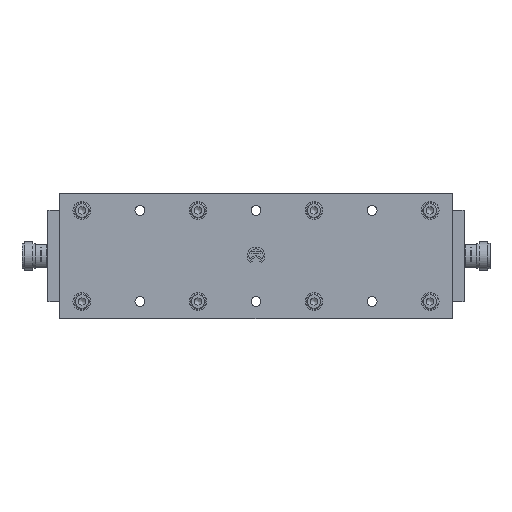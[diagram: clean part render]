
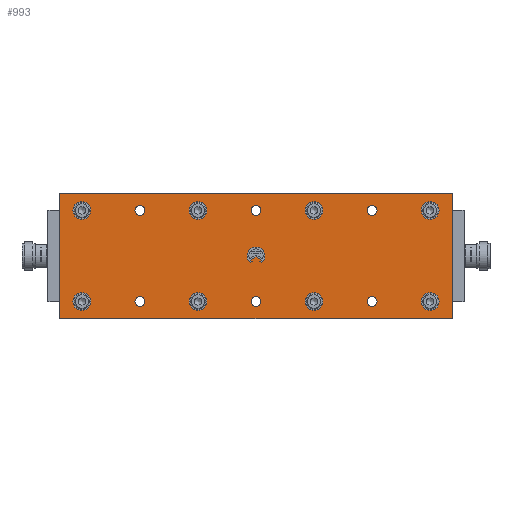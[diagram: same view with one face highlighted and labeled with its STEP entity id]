
A CAD part, top view. The second image highlights one B-rep face of the part: STEP entity #993.
In plain terms, the highlighted planar face has unit normal (0, 0, 1).
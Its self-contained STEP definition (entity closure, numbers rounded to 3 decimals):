
#993=ADVANCED_FACE('',(#2010,#2012,#2014,#2016,#2018,#2020,#2022,#2024,#2026,#2028,
#2030,#2032,#2034,#2036,#2038,#2040),#2042,.T.);
#2010=FACE_BOUND('',#2011,.T.);
#2011=EDGE_LOOP('',(#4111,#4112,#4113,#4114));
#2012=FACE_BOUND('',#2013,.T.);
#2013=EDGE_LOOP('',(#4115,#4116,#4117,#4118,#4119,#4120,#4121));
#2014=FACE_BOUND('',#2015,.T.);
#2015=EDGE_LOOP('',(#4122));
#2016=FACE_BOUND('',#2017,.T.);
#2017=EDGE_LOOP('',(#4123));
#2018=FACE_BOUND('',#2019,.T.);
#2019=EDGE_LOOP('',(#4124));
#2020=FACE_BOUND('',#2021,.T.);
#2021=EDGE_LOOP('',(#4125));
#2022=FACE_BOUND('',#2023,.T.);
#2023=EDGE_LOOP('',(#4126));
#2024=FACE_BOUND('',#2025,.T.);
#2025=EDGE_LOOP('',(#4127));
#2026=FACE_BOUND('',#2027,.T.);
#2027=EDGE_LOOP('',(#4128));
#2028=FACE_BOUND('',#2029,.T.);
#2029=EDGE_LOOP('',(#4129));
#2030=FACE_BOUND('',#2031,.T.);
#2031=EDGE_LOOP('',(#4130));
#2032=FACE_BOUND('',#2033,.T.);
#2033=EDGE_LOOP('',(#4131));
#2034=FACE_BOUND('',#2035,.T.);
#2035=EDGE_LOOP('',(#4132));
#2036=FACE_BOUND('',#2037,.T.);
#2037=EDGE_LOOP('',(#4133));
#2038=FACE_BOUND('',#2039,.T.);
#2039=EDGE_LOOP('',(#4134));
#2040=FACE_BOUND('',#2041,.T.);
#2041=EDGE_LOOP('',(#4135));
#2042=PLANE('',#2043);
#2043=AXIS2_PLACEMENT_3D('',#2044,#2045,#2046);
#2044=CARTESIAN_POINT('',(-35.,-110.,12.5));
#2045=DIRECTION('',(0.,0.,1.));
#2046=DIRECTION('',(1.,0.,0.));
#4111=ORIENTED_EDGE('',*,*,#4968,.F.);
#4112=ORIENTED_EDGE('',*,*,#4969,.T.);
#4113=ORIENTED_EDGE('',*,*,#4970,.T.);
#4114=ORIENTED_EDGE('',*,*,#4971,.F.);
#4115=ORIENTED_EDGE('',*,*,#4972,.T.);
#4116=ORIENTED_EDGE('',*,*,#4973,.T.);
#4117=ORIENTED_EDGE('',*,*,#4974,.T.);
#4118=ORIENTED_EDGE('',*,*,#4975,.T.);
#4119=ORIENTED_EDGE('',*,*,#4976,.T.);
#4120=ORIENTED_EDGE('',*,*,#4977,.T.);
#4121=ORIENTED_EDGE('',*,*,#4978,.T.);
#4122=ORIENTED_EDGE('',*,*,#4979,.T.);
#4123=ORIENTED_EDGE('',*,*,#4980,.T.);
#4124=ORIENTED_EDGE('',*,*,#4981,.T.);
#4125=ORIENTED_EDGE('',*,*,#4982,.T.);
#4126=ORIENTED_EDGE('',*,*,#4983,.T.);
#4127=ORIENTED_EDGE('',*,*,#4984,.T.);
#4128=ORIENTED_EDGE('',*,*,#4985,.T.);
#4129=ORIENTED_EDGE('',*,*,#4986,.T.);
#4130=ORIENTED_EDGE('',*,*,#4987,.T.);
#4131=ORIENTED_EDGE('',*,*,#4988,.T.);
#4132=ORIENTED_EDGE('',*,*,#4989,.T.);
#4133=ORIENTED_EDGE('',*,*,#4990,.T.);
#4134=ORIENTED_EDGE('',*,*,#4991,.T.);
#4135=ORIENTED_EDGE('',*,*,#4992,.T.);
#4968=EDGE_CURVE('',#5550,#5551,#5552,.T.);
#4969=EDGE_CURVE('',#5550,#5553,#5554,.T.);
#4970=EDGE_CURVE('',#5553,#5555,#5556,.T.);
#4971=EDGE_CURVE('',#5551,#5555,#5557,.T.);
#4972=EDGE_CURVE('',#5558,#5559,#5560,.F.);
#4973=EDGE_CURVE('',#5559,#5561,#5562,.F.);
#4974=EDGE_CURVE('',#5561,#5563,#5564,.F.);
#4975=EDGE_CURVE('',#5563,#5565,#5566,.F.);
#4976=EDGE_CURVE('',#5565,#5567,#5568,.F.);
#4977=EDGE_CURVE('',#5567,#5569,#5570,.F.);
#4978=EDGE_CURVE('',#5569,#5558,#5571,.F.);
#4979=EDGE_CURVE('',#5572,#5572,#5573,.F.);
#4980=EDGE_CURVE('',#5574,#5574,#5575,.F.);
#4981=EDGE_CURVE('',#5576,#5576,#5577,.F.);
#4982=EDGE_CURVE('',#5578,#5578,#5579,.F.);
#4983=EDGE_CURVE('',#5580,#5580,#5581,.F.);
#4984=EDGE_CURVE('',#5582,#5582,#5583,.F.);
#4985=EDGE_CURVE('',#5584,#5584,#5585,.F.);
#4986=EDGE_CURVE('',#5586,#5586,#5587,.F.);
#4987=EDGE_CURVE('',#5588,#5588,#5589,.F.);
#4988=EDGE_CURVE('',#5590,#5590,#5591,.F.);
#4989=EDGE_CURVE('',#5592,#5592,#5593,.F.);
#4990=EDGE_CURVE('',#5594,#5594,#5595,.F.);
#4991=EDGE_CURVE('',#5596,#5596,#5597,.F.);
#4992=EDGE_CURVE('',#5598,#5598,#5599,.F.);
#5550=VERTEX_POINT('',#6709);
#5551=VERTEX_POINT('',#6710);
#5552=LINE('',#6711,#6712);
#5553=VERTEX_POINT('',#6714);
#5554=LINE('',#6715,#6716);
#5555=VERTEX_POINT('',#6718);
#5556=LINE('',#6719,#6720);
#5557=LINE('',#6722,#6723);
#5558=VERTEX_POINT('',#6725);
#5559=VERTEX_POINT('',#6726);
#5560=CIRCLE('',#6727,4.);
#5561=VERTEX_POINT('',#6731);
#5562=LINE('',#6732,#6733);
#5563=VERTEX_POINT('',#6735);
#5564=CIRCLE('',#6736,5.);
#5565=VERTEX_POINT('',#6740);
#5566=LINE('',#6741,#6742);
#5567=VERTEX_POINT('',#6744);
#5568=CIRCLE('',#6745,4.);
#5569=VERTEX_POINT('',#6749);
#5570=LINE('',#6750,#6751);
#5571=LINE('',#6753,#6754);
#5572=VERTEX_POINT('',#6756);
#5573=CIRCLE('',#6757,5.);
#5574=VERTEX_POINT('',#6761);
#5575=CIRCLE('',#6762,5.);
#5576=VERTEX_POINT('',#6766);
#5577=CIRCLE('',#6767,5.);
#5578=VERTEX_POINT('',#6771);
#5579=CIRCLE('',#6772,5.);
#5580=VERTEX_POINT('',#6776);
#5581=CIRCLE('',#6777,5.);
#5582=VERTEX_POINT('',#6781);
#5583=CIRCLE('',#6782,5.);
#5584=VERTEX_POINT('',#6786);
#5585=CIRCLE('',#6787,5.);
#5586=VERTEX_POINT('',#6791);
#5587=CIRCLE('',#6792,5.);
#5588=VERTEX_POINT('',#6796);
#5589=CIRCLE('',#6797,2.75);
#5590=VERTEX_POINT('',#6801);
#5591=CIRCLE('',#6802,2.75);
#5592=VERTEX_POINT('',#6806);
#5593=CIRCLE('',#6807,2.75);
#5594=VERTEX_POINT('',#6811);
#5595=CIRCLE('',#6812,2.75);
#5596=VERTEX_POINT('',#6816);
#5597=CIRCLE('',#6817,2.75);
#5598=VERTEX_POINT('',#6821);
#5599=CIRCLE('',#6822,2.75);
#6709=CARTESIAN_POINT('',(-34.9,-109.9,12.5));
#6710=CARTESIAN_POINT('',(-34.9,109.9,12.5));
#6711=CARTESIAN_POINT('',(-34.9,-109.9,12.5));
#6712=VECTOR('',#6713,1.);
#6713=DIRECTION('',(0.,1.,0.));
#6714=CARTESIAN_POINT('',(34.9,-109.9,12.5));
#6715=CARTESIAN_POINT('',(-34.9,-109.9,12.5));
#6716=VECTOR('',#6717,1.);
#6717=DIRECTION('',(1.,0.,0.));
#6718=CARTESIAN_POINT('',(34.9,109.9,12.5));
#6719=CARTESIAN_POINT('',(34.9,-109.9,12.5));
#6720=VECTOR('',#6721,1.);
#6721=DIRECTION('',(0.,1.,0.));
#6722=CARTESIAN_POINT('',(-34.9,109.9,12.5));
#6723=VECTOR('',#6724,1.);
#6724=DIRECTION('',(1.,0.,0.));
#6725=CARTESIAN_POINT('',(-2.417,3.187,12.5));
#6726=CARTESIAN_POINT('',(-3.345,2.194,12.5));
#6727=AXIS2_PLACEMENT_3D('',#6728,#6729,#6730);
#6728=CARTESIAN_POINT('',(0.,0.,12.5));
#6729=DIRECTION('',(0.,0.,-1.));
#6730=DIRECTION('',(-0.836,0.548,0.));
#6731=CARTESIAN_POINT('',(-3.891,3.14,12.5));
#6732=CARTESIAN_POINT('',(-3.891,3.14,12.5));
#6733=VECTOR('',#6734,1.);
#6734=DIRECTION('',(0.5,-0.866,0.));
#6735=CARTESIAN_POINT('',(-3.891,-3.14,12.5));
#6736=AXIS2_PLACEMENT_3D('',#6737,#6738,#6739);
#6737=CARTESIAN_POINT('',(0.,0.,12.5));
#6738=DIRECTION('',(0.,0.,1.));
#6739=DIRECTION('',(-0.778,-0.628,0.));
#6740=CARTESIAN_POINT('',(-3.345,-2.194,12.5));
#6741=CARTESIAN_POINT('',(-3.345,-2.194,12.5));
#6742=VECTOR('',#6743,1.);
#6743=DIRECTION('',(-0.5,-0.866,0.));
#6744=CARTESIAN_POINT('',(-2.417,-3.187,12.5));
#6745=AXIS2_PLACEMENT_3D('',#6746,#6747,#6748);
#6746=CARTESIAN_POINT('',(0.,0.,12.5));
#6747=DIRECTION('',(0.,0.,-1.));
#6748=DIRECTION('',(-0.604,-0.797,0.));
#6749=CARTESIAN_POINT('',(-0.577,0.,12.5));
#6750=CARTESIAN_POINT('',(-0.577,0.,12.5));
#6751=VECTOR('',#6752,1.);
#6752=DIRECTION('',(-0.5,-0.866,0.));
#6753=CARTESIAN_POINT('',(-2.417,3.187,12.5));
#6754=VECTOR('',#6755,1.);
#6755=DIRECTION('',(0.5,-0.866,0.));
#6756=CARTESIAN_POINT('',(20.5,-97.5,12.5));
#6757=AXIS2_PLACEMENT_3D('',#6758,#6759,#6760);
#6758=CARTESIAN_POINT('',(25.5,-97.5,12.5));
#6759=DIRECTION('',(0.,0.,1.));
#6760=DIRECTION('',(-1.,0.,0.));
#6761=CARTESIAN_POINT('',(-30.5,-97.5,12.5));
#6762=AXIS2_PLACEMENT_3D('',#6763,#6764,#6765);
#6763=CARTESIAN_POINT('',(-25.5,-97.5,12.5));
#6764=DIRECTION('',(0.,0.,1.));
#6765=DIRECTION('',(-1.,0.,0.));
#6766=CARTESIAN_POINT('',(-30.5,-32.5,12.5));
#6767=AXIS2_PLACEMENT_3D('',#6768,#6769,#6770);
#6768=CARTESIAN_POINT('',(-25.5,-32.5,12.5));
#6769=DIRECTION('',(0.,0.,1.));
#6770=DIRECTION('',(-1.,0.,0.));
#6771=CARTESIAN_POINT('',(20.5,-32.5,12.5));
#6772=AXIS2_PLACEMENT_3D('',#6773,#6774,#6775);
#6773=CARTESIAN_POINT('',(25.5,-32.5,12.5));
#6774=DIRECTION('',(0.,0.,1.));
#6775=DIRECTION('',(-1.,0.,0.));
#6776=CARTESIAN_POINT('',(-30.5,32.5,12.5));
#6777=AXIS2_PLACEMENT_3D('',#6778,#6779,#6780);
#6778=CARTESIAN_POINT('',(-25.5,32.5,12.5));
#6779=DIRECTION('',(0.,0.,1.));
#6780=DIRECTION('',(-1.,0.,0.));
#6781=CARTESIAN_POINT('',(20.5,32.5,12.5));
#6782=AXIS2_PLACEMENT_3D('',#6783,#6784,#6785);
#6783=CARTESIAN_POINT('',(25.5,32.5,12.5));
#6784=DIRECTION('',(0.,0.,1.));
#6785=DIRECTION('',(-1.,0.,0.));
#6786=CARTESIAN_POINT('',(20.5,97.5,12.5));
#6787=AXIS2_PLACEMENT_3D('',#6788,#6789,#6790);
#6788=CARTESIAN_POINT('',(25.5,97.5,12.5));
#6789=DIRECTION('',(0.,0.,1.));
#6790=DIRECTION('',(-1.,0.,0.));
#6791=CARTESIAN_POINT('',(-30.5,97.5,12.5));
#6792=AXIS2_PLACEMENT_3D('',#6793,#6794,#6795);
#6793=CARTESIAN_POINT('',(-25.5,97.5,12.5));
#6794=DIRECTION('',(0.,0.,1.));
#6795=DIRECTION('',(-1.,0.,0.));
#6796=CARTESIAN_POINT('',(-28.25,65.,12.5));
#6797=AXIS2_PLACEMENT_3D('',#6798,#6799,#6800);
#6798=CARTESIAN_POINT('',(-25.5,65.,12.5));
#6799=DIRECTION('',(0.,0.,1.));
#6800=DIRECTION('',(-1.,0.,0.));
#6801=CARTESIAN_POINT('',(22.75,65.,12.5));
#6802=AXIS2_PLACEMENT_3D('',#6803,#6804,#6805);
#6803=CARTESIAN_POINT('',(25.5,65.,12.5));
#6804=DIRECTION('',(0.,0.,1.));
#6805=DIRECTION('',(-1.,0.,0.));
#6806=CARTESIAN_POINT('',(-28.25,0.,12.5));
#6807=AXIS2_PLACEMENT_3D('',#6808,#6809,#6810);
#6808=CARTESIAN_POINT('',(-25.5,0.,12.5));
#6809=DIRECTION('',(0.,0.,1.));
#6810=DIRECTION('',(-1.,0.,0.));
#6811=CARTESIAN_POINT('',(22.75,0.,12.5));
#6812=AXIS2_PLACEMENT_3D('',#6813,#6814,#6815);
#6813=CARTESIAN_POINT('',(25.5,0.,12.5));
#6814=DIRECTION('',(0.,0.,1.));
#6815=DIRECTION('',(-1.,0.,0.));
#6816=CARTESIAN_POINT('',(-28.25,-65.,12.5));
#6817=AXIS2_PLACEMENT_3D('',#6818,#6819,#6820);
#6818=CARTESIAN_POINT('',(-25.5,-65.,12.5));
#6819=DIRECTION('',(0.,0.,1.));
#6820=DIRECTION('',(-1.,0.,0.));
#6821=CARTESIAN_POINT('',(22.75,-65.,12.5));
#6822=AXIS2_PLACEMENT_3D('',#6823,#6824,#6825);
#6823=CARTESIAN_POINT('',(25.5,-65.,12.5));
#6824=DIRECTION('',(0.,0.,1.));
#6825=DIRECTION('',(-1.,0.,0.));
